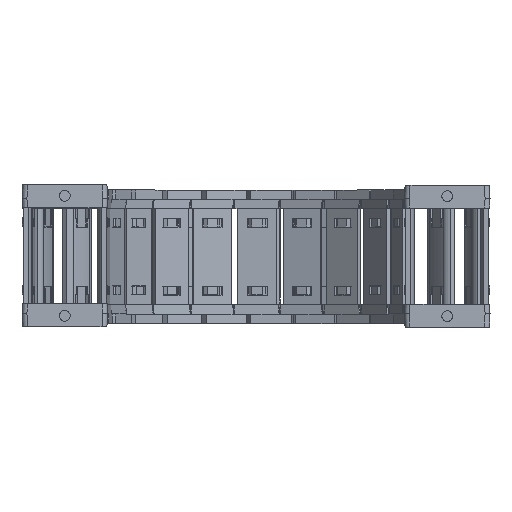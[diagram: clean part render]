
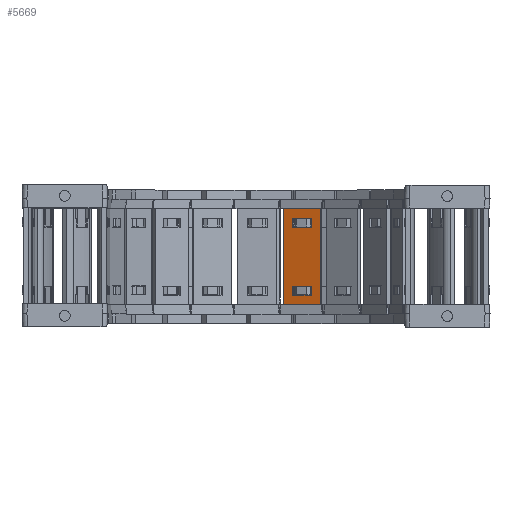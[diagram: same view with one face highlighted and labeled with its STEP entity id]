
A CAD part, top view. The second image highlights one B-rep face of the part: STEP entity #5669.
In plain terms, the highlighted planar face has unit normal (-0.342, 0, 0.94) as drawn and (0, 1, 0) by its records, which use the part's own axes.
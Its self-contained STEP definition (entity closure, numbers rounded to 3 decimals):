
#5089=DIRECTION('',(0.,0.,1.));
#5090=VECTOR('',#5089,15.8);
#5091=CARTESIAN_POINT('',(24.24,1.5,-7.9));
#5092=LINE('',#5091,#5090);
#5093=DIRECTION('',(-1.,0.,0.));
#5094=VECTOR('',#5093,39.);
#5095=CARTESIAN_POINT('',(24.24,1.5,7.9));
#5096=LINE('',#5095,#5094);
#5097=DIRECTION('',(0.,0.,-1.));
#5098=VECTOR('',#5097,15.8);
#5099=CARTESIAN_POINT('',(-14.76,1.5,7.9));
#5100=LINE('',#5099,#5098);
#5101=DIRECTION('',(1.,0.,0.));
#5102=VECTOR('',#5101,3.648);
#5103=CARTESIAN_POINT('',(16.622,1.5,4.075));
#5104=LINE('',#5103,#5102);
#5105=DIRECTION('',(0.,0.,-1.));
#5106=VECTOR('',#5105,8.15);
#5107=CARTESIAN_POINT('',(20.27,1.5,4.075));
#5108=LINE('',#5107,#5106);
#5109=DIRECTION('',(-1.,0.,0.));
#5110=VECTOR('',#5109,3.648);
#5111=CARTESIAN_POINT('',(20.27,1.5,-4.075));
#5112=LINE('',#5111,#5110);
#5113=DIRECTION('',(0.,0.,-1.));
#5114=VECTOR('',#5113,8.15);
#5115=CARTESIAN_POINT('',(-7.142,1.5,4.075));
#5116=LINE('',#5115,#5114);
#5117=DIRECTION('',(-1.,0.,0.));
#5118=VECTOR('',#5117,3.648);
#5119=CARTESIAN_POINT('',(-7.142,1.5,-4.075));
#5120=LINE('',#5119,#5118);
#5121=DIRECTION('',(0.,0.,1.));
#5122=VECTOR('',#5121,8.15);
#5123=CARTESIAN_POINT('',(-10.79,1.5,-4.075));
#5124=LINE('',#5123,#5122);
#5125=DIRECTION('',(1.,0.,0.));
#5126=VECTOR('',#5125,3.648);
#5127=CARTESIAN_POINT('',(-10.79,1.5,4.075));
#5128=LINE('',#5127,#5126);
#5133=DIRECTION('',(-1.,0.,0.));
#5134=VECTOR('',#5133,39.);
#5135=CARTESIAN_POINT('',(24.24,1.5,-7.9));
#5136=LINE('',#5135,#5134);
#5254=DIRECTION('',(0.,0.,-1.));
#5255=VECTOR('',#5254,8.15);
#5256=CARTESIAN_POINT('',(16.622,1.5,4.075));
#5257=LINE('',#5256,#5255);
#5439=CARTESIAN_POINT('',(20.27,1.5,4.075));
#5440=VERTEX_POINT('',#5439);
#5441=CARTESIAN_POINT('',(16.622,1.5,4.075));
#5442=VERTEX_POINT('',#5441);
#5483=CARTESIAN_POINT('',(16.622,1.5,-4.075));
#5484=VERTEX_POINT('',#5483);
#5485=CARTESIAN_POINT('',(20.27,1.5,-4.075));
#5486=VERTEX_POINT('',#5485);
#5487=CARTESIAN_POINT('',(24.24,1.5,7.9));
#5489=VERTEX_POINT('',#5487);
#5491=CARTESIAN_POINT('',(24.24,1.5,-7.9));
#5492=VERTEX_POINT('',#5491);
#5515=CARTESIAN_POINT('',(-7.142,1.5,4.075));
#5516=CARTESIAN_POINT('',(-7.142,1.5,-4.075));
#5517=VERTEX_POINT('',#5515);
#5518=VERTEX_POINT('',#5516);
#5519=CARTESIAN_POINT('',(-10.79,1.5,-4.075));
#5520=VERTEX_POINT('',#5519);
#5521=CARTESIAN_POINT('',(-10.79,1.5,4.075));
#5522=VERTEX_POINT('',#5521);
#5523=CARTESIAN_POINT('',(-14.76,1.5,7.9));
#5524=VERTEX_POINT('',#5523);
#5527=CARTESIAN_POINT('',(-14.76,1.5,-7.9));
#5528=VERTEX_POINT('',#5527);
#5638=CARTESIAN_POINT('',(55.98,1.5,10.061));
#5639=DIRECTION('',(0.,-1.,0.));
#5640=DIRECTION('',(0.,0.,-1.));
#5641=AXIS2_PLACEMENT_3D('',#5638,#5639,#5640);
#5642=PLANE('',#5641);
#5643=ORIENTED_EDGE('',*,*,#5577,.T.);
#5644=ORIENTED_EDGE('',*,*,#5603,.T.);
#5645=ORIENTED_EDGE('',*,*,#5616,.T.);
#5647=ORIENTED_EDGE('',*,*,#5646,.F.);
#5648=EDGE_LOOP('',(#5643,#5644,#5645,#5647));
#5649=FACE_OUTER_BOUND('',#5648,.F.);
#5651=ORIENTED_EDGE('',*,*,#5650,.F.);
#5652=ORIENTED_EDGE('',*,*,#5540,.T.);
#5654=ORIENTED_EDGE('',*,*,#5653,.T.);
#5656=ORIENTED_EDGE('',*,*,#5655,.T.);
#5657=EDGE_LOOP('',(#5651,#5652,#5654,#5656));
#5658=FACE_BOUND('',#5657,.F.);
#5660=ORIENTED_EDGE('',*,*,#5659,.T.);
#5662=ORIENTED_EDGE('',*,*,#5661,.T.);
#5664=ORIENTED_EDGE('',*,*,#5663,.T.);
#5666=ORIENTED_EDGE('',*,*,#5665,.T.);
#5667=EDGE_LOOP('',(#5660,#5662,#5664,#5666));
#5668=FACE_BOUND('',#5667,.F.);
#5669=ADVANCED_FACE('',(#5649,#5658,#5668),#5642,.F.);
#5540=EDGE_CURVE('',#5442,#5440,#5104,.T.);
#5577=EDGE_CURVE('',#5492,#5489,#5092,.T.);
#5603=EDGE_CURVE('',#5489,#5524,#5096,.T.);
#5616=EDGE_CURVE('',#5524,#5528,#5100,.T.);
#5646=EDGE_CURVE('',#5492,#5528,#5136,.T.);
#5650=EDGE_CURVE('',#5442,#5484,#5257,.T.);
#5653=EDGE_CURVE('',#5440,#5486,#5108,.T.);
#5655=EDGE_CURVE('',#5486,#5484,#5112,.T.);
#5659=EDGE_CURVE('',#5517,#5518,#5116,.T.);
#5661=EDGE_CURVE('',#5518,#5520,#5120,.T.);
#5663=EDGE_CURVE('',#5520,#5522,#5124,.T.);
#5665=EDGE_CURVE('',#5522,#5517,#5128,.T.);
